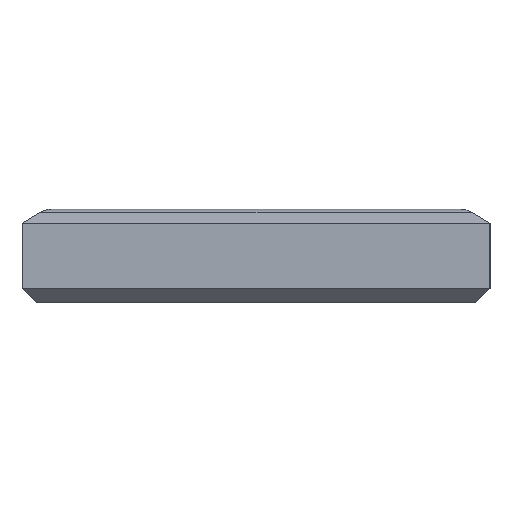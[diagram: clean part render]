
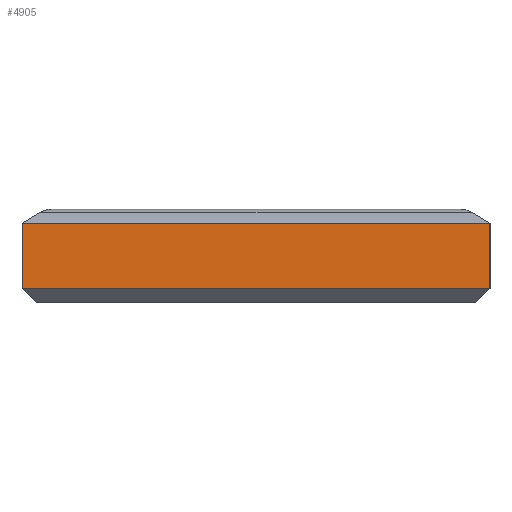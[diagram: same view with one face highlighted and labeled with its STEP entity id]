
A CAD part, left-side view. The second image highlights one B-rep face of the part: STEP entity #4905.
In plain terms, the highlighted planar face has unit normal (-1, 0, 0).
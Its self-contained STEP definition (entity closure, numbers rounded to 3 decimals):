
#13 = ORIENTED_EDGE ( 'NONE', *, *, #1584, .F. ) ;
#74 = VECTOR ( 'NONE', #1080, 1000. ) ;
#79 = CARTESIAN_POINT ( 'NONE',  ( 0., 0., 17. ) ) ;
#122 = VERTEX_POINT ( 'NONE', #3203 ) ;
#176 = CARTESIAN_POINT ( 'NONE',  ( 0., 50., 17. ) ) ;
#296 = DIRECTION ( 'NONE',  ( 0., 0., 1. ) ) ;
#564 = ORIENTED_EDGE ( 'NONE', *, *, #3684, .T. ) ;
#811 = PLANE ( 'NONE',  #1275 ) ;
#1064 = CARTESIAN_POINT ( 'NONE',  ( 0., 0., 10. ) ) ;
#1080 = DIRECTION ( 'NONE',  ( 0., 0., 1. ) ) ;
#1150 = LINE ( 'NONE', #1457, #74 ) ;
#1275 = AXIS2_PLACEMENT_3D ( 'NONE', #2045, #4840, #2455 ) ;
#1406 = LINE ( 'NONE', #1064, #4437 ) ;
#1457 = CARTESIAN_POINT ( 'NONE',  ( 0., 100., 10. ) ) ;
#1584 = EDGE_CURVE ( 'NONE', #4653, #1966, #1150, .T. ) ;
#1722 = ORIENTED_EDGE ( 'NONE', *, *, #2406, .T. ) ;
#1741 = EDGE_CURVE ( 'NONE', #1966, #4445, #3996, .T. ) ;
#1763 = EDGE_LOOP ( 'NONE', ( #564, #2047, #13, #1722 ) ) ;
#1966 = VERTEX_POINT ( 'NONE', #3103 ) ;
#2045 = CARTESIAN_POINT ( 'NONE',  ( 0., 100., 0. ) ) ;
#2047 = ORIENTED_EDGE ( 'NONE', *, *, #1741, .F. ) ;
#2250 = DIRECTION ( 'NONE',  ( 0., -1., 0. ) ) ;
#2406 = EDGE_CURVE ( 'NONE', #4653, #122, #4067, .T. ) ;
#2455 = DIRECTION ( 'NONE',  ( 0., 0., 1. ) ) ;
#2938 = VECTOR ( 'NONE', #2963, 1000. ) ;
#2963 = DIRECTION ( 'NONE',  ( 0., -1., 0. ) ) ;
#3027 = CARTESIAN_POINT ( 'NONE',  ( 0., 100., 3. ) ) ;
#3103 = CARTESIAN_POINT ( 'NONE',  ( 0., 100., 17. ) ) ;
#3203 = CARTESIAN_POINT ( 'NONE',  ( 0., 0., 3. ) ) ;
#3684 = EDGE_CURVE ( 'NONE', #122, #4445, #1406, .T. ) ;
#3996 = LINE ( 'NONE', #176, #2938 ) ;
#4067 = LINE ( 'NONE', #4625, #5129 ) ;
#4437 = VECTOR ( 'NONE', #296, 1000. ) ;
#4445 = VERTEX_POINT ( 'NONE', #79 ) ;
#4625 = CARTESIAN_POINT ( 'NONE',  ( 0., 50., 3. ) ) ;
#4653 = VERTEX_POINT ( 'NONE', #3027 ) ;
#4840 = DIRECTION ( 'NONE',  ( -1., 0., 0. ) ) ;
#4854 = FACE_OUTER_BOUND ( 'NONE', #1763, .T. ) ;
#4905 = ADVANCED_FACE ( 'NONE', ( #4854 ), #811, .T. ) ;
#5129 = VECTOR ( 'NONE', #2250, 1000. ) ;
